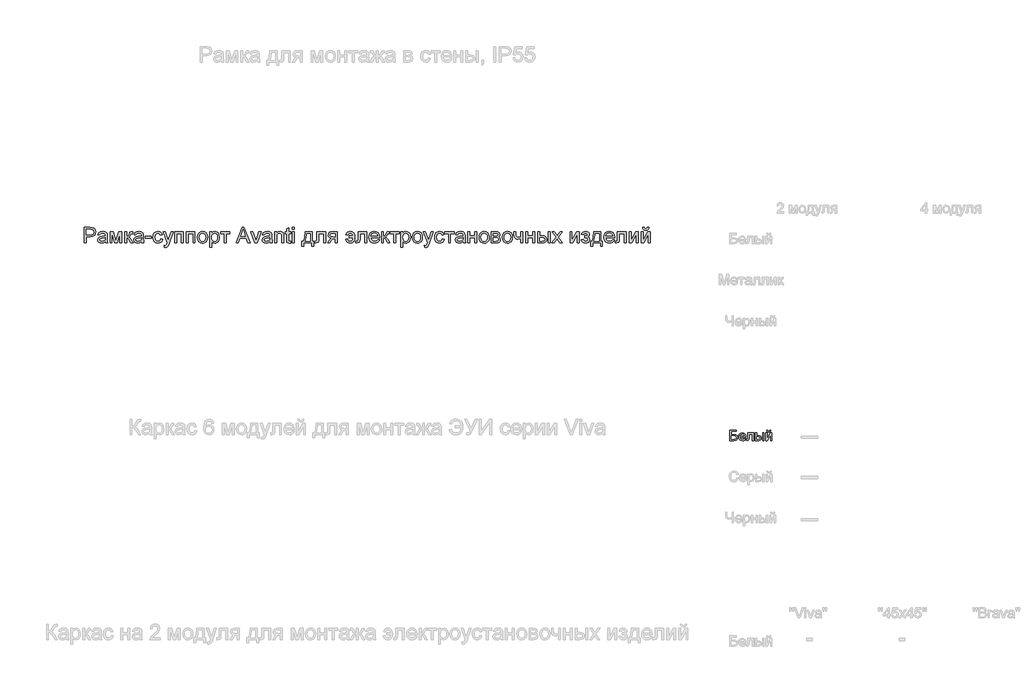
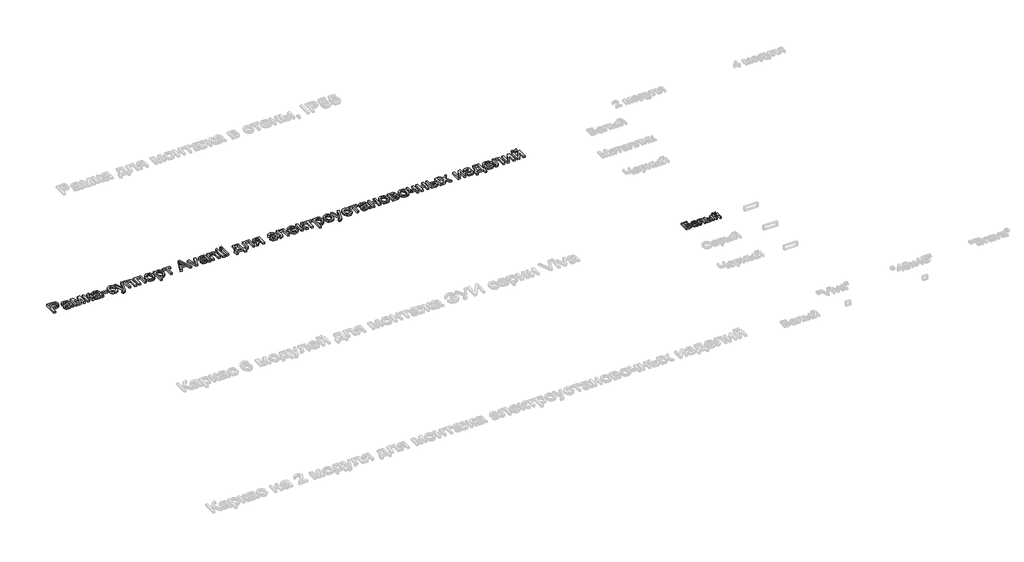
# One storey, part 23 of 48: 2 proxies.
"""IFC4 building model written with IfcOpenShell, lengths in millimetres."""

from ifc_helpers import new_model, si_unit, origin, origin_with_axes, place, context, project, spatial, polyline, outline, extrude, element, save

model = new_model("IFC4")

# Units and contexts
model_context = context("Model", 3, world=origin())
ifc_project = project(units=[si_unit("LENGTHUNIT", "METRE", prefix="MILLI")], contexts=[model_context])

# Site, building, storey
site = spatial("IfcSite", under=ifc_project)
building = spatial("IfcBuilding", under=site)
storey = spatial("IfcBuildingStorey", under=building, Name="Этаж 01", Elevation=0.0)

# Proxies
placement = place(None, origin())
element("IfcBuildingElementProxy", 1, Name="150 мм Arial", ObjectType="150 мм Arial", at=placement, inside=storey, context=model_context, shape_type="SweptSolid", body=[
    extrude(outline(polyline([(70237.9798664, -1719.8131858), (70237.9798664, -1569.1287205), (70293.8243533, -1569.1287205), (70316.3387314, -1570.5634603), (70334.6408607, -1577.6084005), (70346.505055, -1592.1765275), (70350.9932154, -1612.722737), (70347.9627874, -1630.4822403), (70338.8715036, -1645.2802936), (70321.8707569, -1655.2682897), (70295.1119403, -1658.5976218), (70256.8154246, -1658.5976218), (70256.8154246, -1719.8131858), (70237.9798664, -1719.8131858)]), holes=[polyline([(70256.8154246, -1639.7620636), (70296.2155863, -1639.7620636), (70312.9174289, -1638.0330182), (70323.9538887, -1632.8458821), (70330.1067151, -1624.522552), (70332.1576572, -1613.3849246), (70327.320009, -1597.786728), (70314.609686, -1589.2518657), (70295.7741279, -1587.9642787), (70256.8154246, -1587.9642787), (70256.8154246, -1639.7620636)])]), origin_with_axes(), (0.0, 0.0, 1.0), 20.0),
    extrude(outline(polyline([(70445.1710061, -1705.6865172), (70426.9056651, -1718.4520224), (70406.7273376, -1722.1676305), (70390.9865868, -1719.9327474), (70379.3753113, -1713.2280981), (70372.215408, -1703.0469638), (70369.8287735, -1690.3826262), (70373.4340171, -1675.4834054), (70382.9069784, -1664.6676747), (70396.095548, -1658.4872572), (70412.3927204, -1655.6545658), (70445.0606415, -1649.1798427), (70445.1710061, -1644.985988), (70443.8742221, -1636.5798844), (70439.98387, -1631.0800485), (70431.2834608, -1626.9965584), (70419.1617491, -1625.635395), (70400.1054617, -1629.2590327), (70391.0187764, -1642.1165084), (70372.1832183, -1639.7620636), (70380.3318045, -1621.3679639), (70396.7393415, -1610.5890214), (70421.5897702, -1606.7998369), (70444.416848, -1610.147563), (70457.311112, -1618.5536666), (70463.0868593, -1631.3375659), (70464.0065643, -1647.8186793), (70464.0065643, -1671.2527624), (70464.9630575, -1703.9758659), (70468.7154538, -1719.8131858), (70449.8798957, -1719.8131858), (70445.1710061, -1705.6865172)]), holes=[polyline([(70445.1710061, -1668.0154009), (70414.7839533, -1673.7911482), (70398.5787514, -1676.8445687), (70391.2395056, -1681.8109757), (70388.6643317, -1689.058251), (70394.2745321, -1699.2485822), (70410.7372514, -1703.3320724), (70429.7935387, -1698.8255179), (70442.0807974, -1687.9178168), (70445.0606415, -1673.3496898), (70445.1710061, -1668.0154009)])]), origin_with_axes(), (0.0, 0.0, 1.0), 20.0),
    extrude(outline(polyline([(70489.9054567, -1609.1542816), (70522.3158605, -1609.1542816), (70547.295048, -1697.7402661), (70574.22401, -1609.1542816), (70605.2732504, -1609.1542816), (70605.2732504, -1719.8131858), (70586.4376923, -1719.8131858), (70586.4376923, -1630.7121665), (70559.3615774, -1719.8131858), (70534.6399074, -1719.8131858), (70508.7410149, -1626.4447354), (70508.7410149, -1719.8131858), (70489.9054567, -1719.8131858), (70489.9054567, -1609.1542816)])), origin_with_axes(), (0.0, 0.0, 1.0), 20.0),
    extrude(outline(polyline([(70633.5265877, -1609.1542816), (70652.3621458, -1609.1542816), (70652.3621458, -1656.243177), (70664.9804982, -1652.8586627), (70675.3179823, -1633.1401877), (70683.9080269, -1616.1256454), (70691.486396, -1610.5890214), (70705.2635767, -1609.1542816), (70708.8688203, -1609.1542816), (70708.8688203, -1628.1002044), (70703.7920487, -1627.9898398), (70694.5949989, -1629.9764026), (70688.1202757, -1642.3740258), (70680.5235125, -1655.7833245), (70669.8733288, -1662.3500181), (70681.7559172, -1669.6800669), (70693.4177765, -1685.1219136), (70713.5777098, -1719.8131858), (70692.1669777, -1719.8131858), (70672.4117145, -1685.8576776), (70662.4789007, -1671.4918857), (70652.3621458, -1668.0154009), (70652.3621458, -1719.8131858), (70633.5265877, -1719.8131858), (70633.5265877, -1609.1542816)])), origin_with_axes(), (0.0, 0.0, 1.0), 20.0),
    extrude(outline(polyline([(70795.9832767, -1705.6865172), (70777.7179357, -1718.4520224), (70757.5396082, -1722.1676305), (70741.7988574, -1719.9327474), (70730.1875819, -1713.2280981), (70723.0276786, -1703.0469638), (70720.6410441, -1690.3826262), (70724.2462877, -1675.4834054), (70733.719249, -1664.6676747), (70746.9078186, -1658.4872572), (70763.204991, -1655.6545658), (70795.8729121, -1649.1798427), (70795.9832767, -1644.985988), (70794.6864927, -1636.5798844), (70790.7961406, -1631.0800485), (70782.0957314, -1626.9965584), (70769.9740197, -1625.635395), (70750.9177323, -1629.2590327), (70741.831047, -1642.1165084), (70722.9954889, -1639.7620636), (70731.1440751, -1621.3679639), (70747.5516121, -1610.5890214), (70772.4020408, -1606.7998369), (70795.2291186, -1610.147563), (70808.1233826, -1618.5536666), (70813.8991299, -1631.3375659), (70814.8188349, -1647.8186793), (70814.8188349, -1671.2527624), (70815.7753281, -1703.9758659), (70819.5277244, -1719.8131858), (70800.6921663, -1719.8131858), (70795.9832767, -1705.6865172)]), holes=[polyline([(70795.9832767, -1668.0154009), (70765.5962239, -1673.7911482), (70749.391022, -1676.8445687), (70742.0517762, -1681.8109757), (70739.4766023, -1689.058251), (70745.0868027, -1699.2485822), (70761.549522, -1703.3320724), (70780.6058093, -1698.8255179), (70792.893068, -1687.9178168), (70795.8729121, -1673.3496898), (70795.9832767, -1668.0154009)])]), origin_with_axes(), (0.0, 0.0, 1.0), 20.0),
    extrude(outline(polyline([(70831.2999483, -1675.0787352), (70831.2999483, -1656.243177), (70890.1610675, -1656.243177), (70890.1610675, -1675.0787352), (70831.2999483, -1675.0787352)])), origin_with_axes(), (0.0, 0.0, 1.0), 20.0),
    extrude(outline(polyline([(70981.9844135, -1679.7876247), (71000.8199716, -1682.1420695), (70995.5684562, -1698.8944958), (70985.7000216, -1711.554235), (70972.1435701, -1719.5142817), (70955.8280036, -1722.1676305), (70935.7922305, -1718.465818), (70920.125056, -1707.3603802), (70910.0128997, -1689.338761), (70906.6421809, -1664.8884039), (70908.0815192, -1648.1267805), (70912.3995341, -1633.6000402), (70919.6652035, -1621.8692031), (70929.9475053, -1613.4952892), (70942.2485595, -1608.4736999), (70955.5704862, -1606.7998369), (70971.485981, -1609.0990993), (70984.2100996, -1615.9968867), (70993.3381716, -1627.1253171), (70998.4655269, -1642.1165084), (70979.6299687, -1644.4709532), (70970.8927713, -1630.3626786), (70955.717639, -1625.635395), (70943.5453435, -1627.9622486), (70933.8838426, -1634.9428095), (70927.5792649, -1646.9541566), (70925.477739, -1664.3733691), (70927.5332797, -1682.0271063), (70933.6999016, -1694.0798402), (70943.1866586, -1701.0190143), (70955.2026042, -1703.3320724), (70964.9560756, -1701.8881356), (70972.9529105, -1697.5563251), (70978.7700446, -1690.2262763), (70981.9844135, -1679.7876247)])), origin_with_axes(), (0.0, 0.0, 1.0), 20.0),
    extrude(outline(polyline([(71017.301085, -1762.1931916), (71014.9466403, -1744.0566093), (71024.5115721, -1745.7120782), (71033.4511046, -1743.633545), (71038.9325463, -1737.8394035), (71044.0828943, -1723.9702523), (71045.5544223, -1719.4085156), (71005.5288612, -1609.1542816), (71025.3944889, -1609.1542816), (71046.62128, -1670.5905748), (71054.0157081, -1695.1650921), (71061.4101362, -1673.4600544), (71083.2255386, -1609.1542816), (71102.9440135, -1609.1542816), (71064.4267686, -1722.4619361), (71054.4203783, -1747.0364534), (71043.4942831, -1760.3169934), (71028.8157915, -1764.5476364), (71017.301085, -1762.1931916)])), origin_with_axes(), (0.0, 0.0, 1.0), 20.0),
    extrude(outline(polyline([(71118.5422101, -1609.1542816), (71203.3022218, -1609.1542816), (71203.3022218, -1719.8131858), (71184.4666636, -1719.8131858), (71184.4666636, -1627.9898398), (71137.3777682, -1627.9898398), (71137.3777682, -1719.8131858), (71118.5422101, -1719.8131858), (71118.5422101, -1609.1542816)])), origin_with_axes(), (0.0, 0.0, 1.0), 20.0),
    extrude(outline(polyline([(71231.555559, -1609.1542816), (71316.3155707, -1609.1542816), (71316.3155707, -1719.8131858), (71297.4800125, -1719.8131858), (71297.4800125, -1627.9898398), (71250.3911172, -1627.9898398), (71250.3911172, -1719.8131858), (71231.555559, -1719.8131858), (71231.555559, -1609.1542816)])), origin_with_axes(), (0.0, 0.0, 1.0), 20.0),
    extrude(outline(polyline([(71339.8600184, -1664.4837337), (71343.9343115, -1637.803092), (71356.1571908, -1619.0503073), (71371.2587467, -1609.8624545), (71389.3401467, -1606.7998369), (71409.1275996, -1610.5292406), (71424.9327298, -1621.7174518), (71435.2932065, -1639.4815536), (71438.7466987, -1662.9386293), (71437.2199884, -1681.9673255), (71432.6398576, -1696.4526791), (71425.1396634, -1707.3005994), (71414.8527631, -1715.4169959), (71402.6344823, -1720.4799719), (71389.3401467, -1722.1676305), (71369.3135706, -1718.4520224), (71353.5268345, -1707.3051979), (71343.2767224, -1689.1686156), (71339.8600184, -1664.4837337)]), holes=[polyline([(71358.6955765, -1664.4469455), (71360.8752774, -1681.4936775), (71367.4143798, -1693.6383818), (71377.2552232, -1700.9086497), (71389.3401467, -1703.3320724), (71401.369888, -1700.8948542), (71411.1923373, -1693.5831995), (71417.7314397, -1681.2775468), (71419.9111405, -1663.8583343), (71417.7176441, -1647.308243), (71411.137155, -1635.3290856), (71401.3009101, -1628.0588177), (71389.3401467, -1625.635395), (71377.2552232, -1628.0496206), (71367.4143798, -1635.2922974), (71360.8752774, -1647.4094106), (71358.6955765, -1664.4469455)])]), origin_with_axes(), (0.0, 0.0, 1.0), 20.0),
    extrude(outline(polyline([(71459.9367016, -1762.1931916), (71459.9367016, -1609.1542816), (71478.7722598, -1609.1542816), (71478.7722598, -1627.6219578), (71491.7952824, -1612.0053671), (71509.3800418, -1606.7998369), (71522.1179559, -1608.6208527), (71533.2555833, -1614.0839004), (71542.3238744, -1622.8578859), (71548.8537799, -1634.6117157), (71554.1144924, -1663.6376051), (71552.6291688, -1679.746238), (71548.1731982, -1694.1534166), (71540.8891347, -1706.1279756), (71530.9195326, -1714.9387493), (71519.3082571, -1720.3604102), (71507.0991734, -1722.1676305), (71490.7100305, -1717.3299823), (71478.7722598, -1705.097906), (71478.7722598, -1762.1931916), (71459.9367016, -1762.1931916)]), holes=[polyline([(71478.7722598, -1665.3666505), (71480.8094063, -1682.2524341), (71486.920846, -1694.0614461), (71495.9385534, -1701.0144158), (71506.6945032, -1703.3320724), (71517.625197, -1700.9316424), (71526.8728306, -1693.7303523), (71533.1774083, -1681.4890789), (71535.2789342, -1663.9686989), (71533.2279921, -1647.1748858), (71527.0751657, -1635.2003269), (71518.0712539, -1628.026628), (71507.4670554, -1625.635395), (71496.8214702, -1628.1783793), (71487.472669, -1635.8073322), (71480.9473621, -1648.2831303), (71478.7722598, -1665.3666505)])]), origin_with_axes(), (0.0, 0.0, 1.0), 20.0),
    extrude(outline(polyline([(71565.8867162, -1609.1542816), (71655.3556175, -1609.1542816), (71655.3556175, -1627.9898398), (71620.0389459, -1627.9898398), (71620.0389459, -1719.8131858), (71601.2033878, -1719.8131858), (71601.2033878, -1627.9898398), (71565.8867162, -1627.9898398), (71565.8867162, -1609.1542816)])), origin_with_axes(), (0.0, 0.0, 1.0), 20.0),
    extrude(outline(polyline([(71715.5043237, -1719.8131858), (71775.6530299, -1569.1287205), (71791.6926849, -1569.1287205), (71851.8413911, -1719.8131858), (71831.9389751, -1719.8131858), (71814.6853096, -1672.7242904), (71752.623617, -1672.7242904), (71735.4067396, -1719.8131858), (71715.5043237, -1719.8131858)]), holes=[polyline([(71759.5397985, -1653.8887322), (71807.8059163, -1653.8887322), (71794.2310706, -1616.8430153), (71783.6728574, -1587.9642787), (71774.2918665, -1613.6056538), (71759.5397985, -1653.8887322)])]), origin_with_axes(), (0.0, 0.0, 1.0), 20.0),
    extrude(outline(polyline([(71896.7597827, -1719.8131858), (71857.8378676, -1609.1542816), (71877.7770717, -1609.1542816), (71901.3583076, -1675.4466172), (71908.4584301, -1697.7402661), (71915.4113998, -1676.6974159), (71939.1397885, -1609.1542816), (71959.0789927, -1609.1542816), (71920.6353242, -1719.8131858), (71896.7597827, -1719.8131858)])), origin_with_axes(), (0.0, 0.0, 1.0), 20.0),
    extrude(outline(polyline([(72046.1934491, -1705.6865172), (72027.9281081, -1718.4520224), (72007.7497806, -1722.1676305), (71992.0090298, -1719.9327474), (71980.3977543, -1713.2280981), (71973.237851, -1703.0469638), (71970.8512165, -1690.3826262), (71974.4564601, -1675.4834054), (71983.9294214, -1664.6676747), (71997.117991, -1658.4872572), (72013.4151634, -1655.6545658), (72046.0830845, -1649.1798427), (72046.1934491, -1644.985988), (72044.8966651, -1636.5798844), (72041.006313, -1631.0800485), (72032.3059038, -1626.9965584), (72020.1841921, -1625.635395), (72001.1279047, -1629.2590327), (71992.0412194, -1642.1165084), (71973.2056613, -1639.7620636), (71981.3542475, -1621.3679639), (71997.7617845, -1610.5890214), (72022.6122132, -1606.7998369), (72045.439291, -1610.147563), (72058.333555, -1618.5536666), (72064.1093023, -1631.3375659), (72065.0290073, -1647.8186793), (72065.0290073, -1671.2527624), (72065.9855005, -1703.9758659), (72069.7378968, -1719.8131858), (72050.9023387, -1719.8131858), (72046.1934491, -1705.6865172)]), holes=[polyline([(72046.1934491, -1668.0154009), (72015.8063963, -1673.7911482), (71999.6011944, -1676.8445687), (71992.2619486, -1681.8109757), (71989.6867747, -1689.058251), (71995.2969751, -1699.2485822), (72011.7596944, -1703.3320724), (72030.8159817, -1698.8255179), (72043.1032404, -1687.9178168), (72046.0830845, -1673.3496898), (72046.1934491, -1668.0154009)])]), origin_with_axes(), (0.0, 0.0, 1.0), 20.0),
    extrude(outline(polyline([(72090.9278997, -1719.8131858), (72090.9278997, -1609.1542816), (72109.7634579, -1609.1542816), (72109.7634579, -1624.6053254), (72124.166038, -1611.251209), (72143.8293307, -1606.7998369), (72161.6164251, -1610.3866863), (72173.756531, -1619.8044654), (72179.4035196, -1633.6552225), (72180.396801, -1651.8653813), (72180.396801, -1719.8131858), (72161.5612428, -1719.8131858), (72161.5612428, -1654.403767), (72159.390739, -1637.7387126), (72151.7203994, -1628.9279389), (72138.7893473, -1625.635395), (72127.757486, -1627.484002), (72118.3535025, -1633.0298231), (72111.910969, -1643.7443862), (72109.7634579, -1661.0992193), (72109.7634579, -1719.8131858), (72090.9278997, -1719.8131858)])), origin_with_axes(), (0.0, 0.0, 1.0), 20.0),
    extrude(outline(polyline([(72246.3212545, -1704.1046246), (72248.6756993, -1720.3650088), (72234.5858189, -1722.1676305), (72218.8036813, -1719.0406336), (72210.9310066, -1710.8368651), (72208.6501382, -1689.4629212), (72208.6501382, -1627.9898398), (72194.5234696, -1627.9898398), (72194.5234696, -1609.1542816), (72208.6501382, -1609.1542816), (72208.6501382, -1582.2621078), (72227.4856964, -1571.1888597), (72227.4856964, -1609.1542816), (72246.3212545, -1609.1542816), (72246.3212545, -1627.9898398), (72227.4856964, -1627.9898398), (72227.4856964, -1688.9110982), (72228.4789777, -1698.6231829), (72231.6979452, -1702.0628795), (72238.117486, -1703.3320724), (72246.3212545, -1704.1046246)])), origin_with_axes(), (0.0, 0.0, 1.0), 20.0),
    extrude(outline(polyline([(72265.1568127, -1587.9642787), (72265.1568127, -1569.1287205), (72283.9923708, -1569.1287205), (72283.9923708, -1587.9642787), (72265.1568127, -1587.9642787)])), origin_with_axes(), (0.0, 0.0, 1.0), 20.0),
    extrude(outline(polyline([(72265.1568127, -1719.8131858), (72265.1568127, -1609.1542816), (72283.9923708, -1609.1542816), (72283.9923708, -1719.8131858), (72265.1568127, -1719.8131858)])), origin_with_axes(), (0.0, 0.0, 1.0), 20.0),
    extrude(outline(polyline([(72387.5879407, -1609.1542816), (72458.2212837, -1609.1542816), (72458.2212837, -1700.9776276), (72472.3479523, -1700.9776276), (72472.3479523, -1750.4209678), (72453.5123942, -1750.4209678), (72453.5123942, -1719.8131858), (72375.8157168, -1719.8131858), (72375.8157168, -1750.4209678), (72356.9801587, -1750.4209678), (72356.9801587, -1700.9776276), (72368.7523825, -1700.9776276), (72377.3102374, -1685.5127882), (72383.3021154, -1665.0539508), (72387.5879407, -1609.1542816)]), holes=[polyline([(72404.069054, -1627.9898398), (72399.6544701, -1670.9032745), (72389.9423854, -1700.9776276), (72439.3857256, -1700.9776276), (72439.3857256, -1627.9898398), (72404.069054, -1627.9898398)])]), origin_with_axes(), (0.0, 0.0, 1.0), 20.0),
    extrude(outline(polyline([(72502.9557343, -1609.1542816), (72587.715746, -1609.1542816), (72587.715746, -1719.7028212), (72568.8801879, -1719.7028212), (72568.8801879, -1627.9898398), (72521.7912925, -1627.9898398), (72521.7912925, -1680.7809061), (72520.5220996, -1705.1346942), (72513.5507358, -1715.4169959), (72497.0696224, -1719.8131858), (72481.7657314, -1718.8566926), (72481.7657314, -1700.9776276), (72490.1902291, -1700.9776276), (72498.7066973, -1699.8187993), (72502.1096058, -1696.1399794), (72502.9557343, -1679.7140483), (72502.9557343, -1609.1542816)])), origin_with_axes(), (0.0, 0.0, 1.0), 20.0),
    extrude(outline(polyline([(72700.729095, -1609.1542816), (72700.729095, -1719.8131858), (72681.8935368, -1719.8131858), (72681.8935368, -1677.4331799), (72671.6296291, -1677.4331799), (72657.6501133, -1679.8244129), (72644.5167261, -1695.9008561), (72629.5071407, -1719.8131858), (72607.7285266, -1719.8131858), (72626.6376611, -1689.5732858), (72634.9885824, -1678.7207669), (72642.6773161, -1673.9015128), (72629.8014463, -1669.9559784), (72620.7515492, -1662.4603827), (72615.3988662, -1652.4907807), (72613.6146385, -1641.123227), (72616.0518567, -1628.2289631), (72623.3635114, -1618.0202377), (72635.2920851, -1611.3707706), (72651.5800604, -1609.1542816), (72700.729095, -1609.1542816)]), holes=[polyline([(72681.8935368, -1627.9898398), (72657.0615021, -1627.9898398), (72644.2362161, -1629.0796902), (72636.9567511, -1632.3492414), (72632.4501966, -1642.5579668), (72634.1102641, -1649.7362642), (72639.0904667, -1654.7164667), (72662.6165203, -1658.5976218), (72681.8935368, -1658.5976218), (72681.8935368, -1627.9898398)])]), origin_with_axes(), (0.0, 0.0, 1.0), 20.0),
    extrude(outline(polyline([(72818.4513334, -1651.5342875), (72853.7680049, -1651.5342875), (72850.8663357, -1641.1002344), (72845.2515368, -1632.827488), (72837.2914901, -1627.4334183), (72827.3540777, -1625.635395), (72812.0869749, -1630.3442845), (72804.3246648, -1644.4709532), (72785.4891066, -1642.1165084), (72789.880698, -1627.9760442), (72798.4201588, -1616.6774684), (72810.6752277, -1609.2692447), (72826.2136435, -1606.7998369), (72845.4400763, -1610.6442037), (72860.1507576, -1622.1773043), (72869.4903617, -1640.4426453), (72872.6035631, -1664.4837337), (72870.0329877, -1688.4144575), (72861.1440389, -1707.2316215), (72846.6172987, -1719.0958159), (72827.1333485, -1722.1676305), (72810.4315059, -1719.4131141), (72797.2613305, -1711.1495648), (72788.0274924, -1698.3886581), (72783.1346619, -1682.1420695), (72801.97022, -1679.7876247), (72804.9454657, -1690.0883206), (72810.082018, -1697.4459605), (72817.3798771, -1701.8605444), (72826.8390429, -1703.3320724), (72837.4800296, -1701.2719332), (72845.4906601, -1695.0915157), (72850.9077224, -1684.7908198), (72853.7680049, -1670.3698456), (72818.4513334, -1670.3698456), (72818.4513334, -1651.5342875)])), origin_with_axes(), (0.0, 0.0, 1.0), 20.0),
    extrude(outline(polyline([(72903.2113451, -1609.1542816), (72987.9713568, -1609.1542816), (72987.9713568, -1719.7028212), (72969.1357986, -1719.7028212), (72969.1357986, -1627.9898398), (72922.0469032, -1627.9898398), (72922.0469032, -1680.7809061), (72920.7777104, -1705.1346942), (72913.8063466, -1715.4169959), (72897.3252332, -1719.8131858), (72882.0213422, -1718.8566926), (72882.0213422, -1700.9776276), (72890.4458399, -1700.9776276), (72898.9623081, -1699.8187993), (72902.3652165, -1696.1399794), (72903.2113451, -1679.7140483), (72903.2113451, -1609.1542816)])), origin_with_axes(), (0.0, 0.0, 1.0), 20.0),
    extrude(outline(polyline([(73093.7006422, -1686.850959), (73112.1683184, -1689.2054038), (73105.5142528, -1703.1205402), (73094.8962587, -1713.5224037), (73080.5534594, -1720.0063238), (73062.7249782, -1722.1676305), (73040.6244673, -1718.4382268), (73023.6191221, -1707.2500156), (73012.7758003, -1689.3295639), (73009.1613597, -1665.4034387), (73012.8125885, -1640.6725716), (73023.7662749, -1622.1773043), (73040.5416939, -1610.6442037), (73061.6581204, -1606.7998369), (73082.1169579, -1610.6350067), (73098.464714, -1622.1405161), (73109.1838757, -1640.5989952), (73112.7569295, -1665.2930741), (73112.646565, -1670.3698456), (73027.9969179, -1670.3698456), (73031.257272, -1684.4689231), (73038.8310426, -1694.8339983), (73049.7617364, -1701.2075539), (73063.0928602, -1703.3320724), (73081.5605364, -1699.395735), (73093.7006422, -1686.850959)]), holes=[polyline([(73027.9969179, -1651.5342875), (73093.9213714, -1651.5342875), (73091.3737886, -1641.5830795), (73086.3797905, -1634.4645629), (73075.3985129, -1627.842687), (73061.584544, -1625.635395), (73048.8880167, -1627.3966301), (73038.3895842, -1632.6803352), (73031.0917251, -1640.9162934), (73027.9969179, -1651.5342875)])]), origin_with_axes(), (0.0, 0.0, 1.0), 20.0),
    extrude(outline(polyline([(73131.5924877, -1609.1542816), (73150.4280459, -1609.1542816), (73150.4280459, -1656.243177), (73163.0463983, -1652.8586627), (73173.3838824, -1633.1401877), (73181.9739269, -1616.1256454), (73189.552296, -1610.5890214), (73203.3294768, -1609.1542816), (73206.9347203, -1609.1542816), (73206.9347203, -1628.1002044), (73201.8579488, -1627.9898398), (73192.6608989, -1629.9764026), (73186.1861758, -1642.3740258), (73178.5894126, -1655.7833245), (73167.9392288, -1662.3500181), (73179.8218173, -1669.6800669), (73191.4836765, -1685.1219136), (73211.6436099, -1719.8131858), (73190.2328777, -1719.8131858), (73170.4776146, -1685.8576776), (73160.5448007, -1671.4918857), (73150.4280459, -1668.0154009), (73150.4280459, -1719.8131858), (73131.5924877, -1719.8131858), (73131.5924877, -1609.1542816)])), origin_with_axes(), (0.0, 0.0, 1.0), 20.0),
    extrude(outline(polyline([(73213.9980546, -1609.1542816), (73303.4669558, -1609.1542816), (73303.4669558, -1627.9898398), (73268.1502843, -1627.9898398), (73268.1502843, -1719.8131858), (73249.3147262, -1719.8131858), (73249.3147262, -1627.9898398), (73213.9980546, -1627.9898398), (73213.9980546, -1609.1542816)])), origin_with_axes(), (0.0, 0.0, 1.0), 20.0),
    extrude(outline(polyline([(73319.9480692, -1762.1931916), (73319.9480692, -1609.1542816), (73338.7836274, -1609.1542816), (73338.7836274, -1627.6219578), (73351.80665, -1612.0053671), (73369.3914094, -1606.7998369), (73382.1293235, -1608.6208527), (73393.2669509, -1614.0839004), (73402.3352421, -1622.8578859), (73408.8651475, -1634.6117157), (73414.12586, -1663.6376051), (73412.6405364, -1679.746238), (73408.1845658, -1694.1534166), (73400.9005023, -1706.1279756), (73390.9309002, -1714.9387493), (73379.3196247, -1720.3604102), (73367.110541, -1722.1676305), (73350.7213981, -1717.3299823), (73338.7836274, -1705.097906), (73338.7836274, -1762.1931916), (73319.9480692, -1762.1931916)]), holes=[polyline([(73338.7836274, -1665.3666505), (73340.8207739, -1682.2524341), (73346.9322136, -1694.0614461), (73355.949921, -1701.0144158), (73366.7058708, -1703.3320724), (73377.6365646, -1700.9316424), (73386.8841983, -1693.7303523), (73393.1887759, -1681.4890789), (73395.2903018, -1663.9686989), (73393.2393597, -1647.1748858), (73387.0865334, -1635.2003269), (73378.0826215, -1628.026628), (73367.478423, -1625.635395), (73356.8328378, -1628.1783793), (73347.4840366, -1635.8073322), (73340.9587297, -1648.2831303), (73338.7836274, -1665.3666505)])]), origin_with_axes(), (0.0, 0.0, 1.0), 20.0),
    extrude(outline(polyline([(73430.6069734, -1664.4837337), (73434.6812665, -1637.803092), (73446.9041458, -1619.0503073), (73462.0057017, -1609.8624545), (73480.0871017, -1606.7998369), (73499.8745545, -1610.5292406), (73515.6796848, -1621.7174518), (73526.0401615, -1639.4815536), (73529.4936537, -1662.9386293), (73527.9669434, -1681.9673255), (73523.3868126, -1696.4526791), (73515.8866184, -1707.3005994), (73505.5997181, -1715.4169959), (73493.3814373, -1720.4799719), (73480.0871017, -1722.1676305), (73460.0605256, -1718.4520224), (73444.2737895, -1707.3051979), (73434.0236774, -1689.1686156), (73430.6069734, -1664.4837337)]), holes=[polyline([(73449.4425315, -1664.4469455), (73451.6222324, -1681.4936775), (73458.1613348, -1693.6383818), (73468.0021782, -1700.9086497), (73480.0871017, -1703.3320724), (73492.116843, -1700.8948542), (73501.9392922, -1693.5831995), (73508.4783947, -1681.2775468), (73510.6580955, -1663.8583343), (73508.4645991, -1647.308243), (73501.8841099, -1635.3290856), (73492.0478651, -1628.0588177), (73480.0871017, -1625.635395), (73468.0021782, -1628.0496206), (73458.1613348, -1635.2922974), (73451.6222324, -1647.4094106), (73449.4425315, -1664.4469455)])]), origin_with_axes(), (0.0, 0.0, 1.0), 20.0),
    extrude(outline(polyline([(73550.6836566, -1762.1931916), (73548.3292118, -1744.0566093), (73557.8941437, -1745.7120782), (73566.8336762, -1743.633545), (73572.3151179, -1737.8394035), (73577.4654659, -1723.9702523), (73578.9369938, -1719.4085156), (73538.9114328, -1609.1542816), (73558.7770605, -1609.1542816), (73580.0038516, -1670.5905748), (73587.3982797, -1695.1650921), (73594.7927078, -1673.4600544), (73616.6081101, -1609.1542816), (73636.3265851, -1609.1542816), (73597.8093402, -1722.4619361), (73587.8029499, -1747.0364534), (73576.8768547, -1760.3169934), (73562.1983631, -1764.5476364), (73550.6836566, -1762.1931916)])), origin_with_axes(), (0.0, 0.0, 1.0), 20.0),
    extrude(outline(polyline([(73722.5581248, -1679.7876247), (73741.3936829, -1682.1420695), (73736.1421674, -1698.8944958), (73726.2737329, -1711.554235), (73712.7172814, -1719.5142817), (73696.4017149, -1722.1676305), (73676.3659417, -1718.465818), (73660.6987673, -1707.3603802), (73650.5866109, -1689.338761), (73647.2158921, -1664.8884039), (73648.6552304, -1648.1267805), (73652.9732454, -1633.6000402), (73660.2389148, -1621.8692031), (73670.5212165, -1613.4952892), (73682.8222708, -1608.4736999), (73696.1441975, -1606.7998369), (73712.0596923, -1609.0990993), (73724.7838108, -1615.9968867), (73733.9118828, -1627.1253171), (73739.0392381, -1642.1165084), (73720.20368, -1644.4709532), (73711.4664826, -1630.3626786), (73696.2913503, -1625.635395), (73684.1190548, -1627.9622486), (73674.4575539, -1634.9428095), (73668.1529762, -1646.9541566), (73666.0514503, -1664.3733691), (73668.1069909, -1682.0271063), (73674.2736129, -1694.0798402), (73683.7603698, -1701.0190143), (73695.7763155, -1703.3320724), (73705.5297869, -1701.8881356), (73713.5266218, -1697.5563251), (73719.3437558, -1690.2262763), (73722.5581248, -1679.7876247)])), origin_with_axes(), (0.0, 0.0, 1.0), 20.0),
    extrude(outline(polyline([(73748.4570172, -1609.1542816), (73837.9259184, -1609.1542816), (73837.9259184, -1627.9898398), (73802.6092469, -1627.9898398), (73802.6092469, -1719.8131858), (73783.7736888, -1719.8131858), (73783.7736888, -1627.9898398), (73748.4570172, -1627.9898398), (73748.4570172, -1609.1542816)])), origin_with_axes(), (0.0, 0.0, 1.0), 20.0),
    extrude(outline(polyline([(73925.0403749, -1705.6865172), (73906.7750338, -1718.4520224), (73886.5967064, -1722.1676305), (73870.8559555, -1719.9327474), (73859.2446801, -1713.2280981), (73852.0847767, -1703.0469638), (73849.6981423, -1690.3826262), (73853.3033858, -1675.4834054), (73862.7763472, -1664.6676747), (73875.9649167, -1658.4872572), (73892.2620891, -1655.6545658), (73924.9300103, -1649.1798427), (73925.0403749, -1644.985988), (73923.7435909, -1636.5798844), (73919.8532388, -1631.0800485), (73911.1528296, -1626.9965584), (73899.0311178, -1625.635395), (73879.9748305, -1629.2590327), (73870.8881452, -1642.1165084), (73852.0525871, -1639.7620636), (73860.2011732, -1621.3679639), (73876.6087102, -1610.5890214), (73901.459139, -1606.7998369), (73924.2862168, -1610.147563), (73937.1804807, -1618.5536666), (73942.9562281, -1631.3375659), (73943.8759331, -1647.8186793), (73943.8759331, -1671.2527624), (73944.8324262, -1703.9758659), (73948.5848226, -1719.8131858), (73929.7492644, -1719.8131858), (73925.0403749, -1705.6865172)]), holes=[polyline([(73925.0403749, -1668.0154009), (73894.6533221, -1673.7911482), (73878.4481202, -1676.8445687), (73871.1088744, -1681.8109757), (73868.5337004, -1689.058251), (73874.1439009, -1699.2485822), (73890.6066202, -1703.3320724), (73909.6629075, -1698.8255179), (73921.9501661, -1687.9178168), (73924.9300103, -1673.3496898), (73925.0403749, -1668.0154009)])]), origin_with_axes(), (0.0, 0.0, 1.0), 20.0),
    extrude(outline(polyline([(73969.7748255, -1609.1542816), (73988.6103837, -1609.1542816), (73988.6103837, -1651.5342875), (74038.0537238, -1651.5342875), (74038.0537238, -1609.1542816), (74056.889282, -1609.1542816), (74056.889282, -1719.8131858), (74038.0537238, -1719.8131858), (74038.0537238, -1670.3698456), (73988.6103837, -1670.3698456), (73988.6103837, -1719.8131858), (73969.7748255, -1719.8131858), (73969.7748255, -1609.1542816)])), origin_with_axes(), (0.0, 0.0, 1.0), 20.0),
    extrude(outline(polyline([(74080.4337297, -1664.4837337), (74084.5080228, -1637.803092), (74096.730902, -1619.0503073), (74111.832458, -1609.8624545), (74129.913858, -1606.7998369), (74149.7013108, -1610.5292406), (74165.506441, -1621.7174518), (74175.8669177, -1639.4815536), (74179.32041, -1662.9386293), (74177.7936997, -1681.9673255), (74173.2135688, -1696.4526791), (74165.7133747, -1707.3005994), (74155.4264744, -1715.4169959), (74143.2081936, -1720.4799719), (74129.913858, -1722.1676305), (74109.8872819, -1718.4520224), (74094.1005458, -1707.3051979), (74083.8504337, -1689.1686156), (74080.4337297, -1664.4837337)]), holes=[polyline([(74099.2692878, -1664.4469455), (74101.4489886, -1681.4936775), (74107.9880911, -1693.6383818), (74117.8289345, -1700.9086497), (74129.913858, -1703.3320724), (74141.9435993, -1700.8948542), (74151.7660485, -1693.5831995), (74158.305151, -1681.2775468), (74160.4848518, -1663.8583343), (74158.2913554, -1647.308243), (74151.7108662, -1635.3290856), (74141.8746214, -1628.0588177), (74129.913858, -1625.635395), (74117.8289345, -1628.0496206), (74107.9880911, -1635.2922974), (74101.4489886, -1647.4094106), (74099.2692878, -1664.4469455)])]), origin_with_axes(), (0.0, 0.0, 1.0), 20.0),
    extrude(outline(polyline([(74200.5104129, -1609.1542816), (74242.0075019, -1609.1542816), (74264.7610033, -1611.6742733), (74277.5632968, -1620.9081114), (74282.9159798, -1637.0029487), (74279.6786183, -1650.0811536), (74269.9297454, -1659.4069622), (74282.584886, -1669.6156875), (74287.6248693, -1687.3659938), (74284.433493, -1701.7225887), (74276.8459269, -1711.8301465), (74264.8345797, -1717.8174259), (74248.3718605, -1719.8131858), (74200.5104129, -1719.8131858), (74200.5104129, -1609.1542816)]), holes=[polyline([(74219.345971, -1651.5342875), (74237.9608, -1651.5342875), (74253.3198733, -1650.5777943), (74260.7878778, -1646.7518215), (74264.0804217, -1639.83564), (74262.6364848, -1634.2162425), (74258.3046743, -1630.6018019), (74238.5494112, -1627.9898398), (74219.345971, -1627.9898398), (74219.345971, -1651.5342875)]), polyline([(74219.345971, -1700.9776276), (74242.4489603, -1700.9776276), (74262.9399875, -1697.5747192), (74267.1798275, -1692.9348075), (74268.7893112, -1685.8208894), (74265.5703437, -1676.7525982), (74257.1826342, -1671.4734916), (74240.6095504, -1670.3698456), (74219.345971, -1670.3698456), (74219.345971, -1700.9776276)])]), origin_with_axes(), (0.0, 0.0, 1.0), 20.0),
    extrude(outline(polyline([(74306.4604275, -1664.4837337), (74310.5347206, -1637.803092), (74322.7575999, -1619.0503073), (74337.8591558, -1609.8624545), (74355.9405559, -1606.7998369), (74375.7280087, -1610.5292406), (74391.5331389, -1621.7174518), (74401.8936156, -1639.4815536), (74405.3471078, -1662.9386293), (74403.8203975, -1681.9673255), (74399.2402667, -1696.4526791), (74391.7400725, -1707.3005994), (74381.4531722, -1715.4169959), (74369.2348915, -1720.4799719), (74355.9405559, -1722.1676305), (74335.9139797, -1718.4520224), (74320.1272436, -1707.3051979), (74309.8771315, -1689.1686156), (74306.4604275, -1664.4837337)]), holes=[polyline([(74325.2959857, -1664.4469455), (74327.4756865, -1681.4936775), (74334.0147889, -1693.6383818), (74343.8556323, -1700.9086497), (74355.9405559, -1703.3320724), (74367.9702971, -1700.8948542), (74377.7927464, -1693.5831995), (74384.3318488, -1681.2775468), (74386.5115496, -1663.8583343), (74384.3180533, -1647.308243), (74377.7375641, -1635.3290856), (74367.9013192, -1628.0588177), (74355.9405559, -1625.635395), (74343.8556323, -1628.0496206), (74334.0147889, -1635.2922974), (74327.4756865, -1647.4094106), (74325.2959857, -1664.4469455)])]), origin_with_axes(), (0.0, 0.0, 1.0), 20.0),
    extrude(outline(polyline([(74419.4737764, -1609.1542816), (74438.3093346, -1609.1542816), (74438.3093346, -1630.3810727), (74439.8360449, -1650.2834887), (74447.1752907, -1661.0624311), (74461.7434177, -1665.6609561), (74487.7526747, -1659.9587852), (74487.7526747, -1609.1542816), (74506.5882329, -1609.1542816), (74506.5882329, -1719.8131858), (74487.7526747, -1719.8131858), (74487.7526747, -1678.0217911), (74456.7034343, -1684.4965142), (74445.3128881, -1682.8088556), (74435.3478845, -1677.7458796), (74427.5809759, -1670.2364884), (74422.7847144, -1661.2095839), (74419.4737764, -1639.6884872), (74419.4737764, -1609.1542816)])), origin_with_axes(), (0.0, 0.0, 1.0), 20.0),
    extrude(outline(polyline([(74534.8415701, -1609.1542816), (74553.6771283, -1609.1542816), (74553.6771283, -1651.5342875), (74603.1204684, -1651.5342875), (74603.1204684, -1609.1542816), (74621.9560266, -1609.1542816), (74621.9560266, -1719.8131858), (74603.1204684, -1719.8131858), (74603.1204684, -1670.3698456), (74553.6771283, -1670.3698456), (74553.6771283, -1719.8131858), (74534.8415701, -1719.8131858), (74534.8415701, -1609.1542816)])), origin_with_axes(), (0.0, 0.0, 1.0), 20.0),
    extrude(outline(polyline([(74753.8049336, -1609.1542816), (74772.6404918, -1609.1542816), (74772.6404918, -1719.8131858), (74753.8049336, -1719.8131858), (74753.8049336, -1609.1542816)])), origin_with_axes(), (0.0, 0.0, 1.0), 20.0),
    extrude(outline(polyline([(74650.2093638, -1609.1542816), (74669.0449219, -1609.1542816), (74669.0449219, -1649.1798427), (74692.3318522, -1649.1798427), (74712.4595959, -1651.538886), (74727.3726123, -1658.6160159), (74736.6018518, -1669.8410153), (74739.678265, -1684.643667), (74737.0984925, -1698.1219436), (74729.3591751, -1709.4940958), (74715.9544749, -1717.2334133), (74696.3785542, -1719.8131858), (74650.2093638, -1719.8131858), (74650.2093638, -1609.1542816)]), holes=[polyline([(74669.0449219, -1700.9776276), (74688.3955149, -1700.9776276), (74713.3747024, -1697.0228962), (74718.9757057, -1691.9599202), (74720.8427069, -1684.6804552), (74715.3060828, -1673.0921724), (74706.4263312, -1669.2845937), (74690.8603243, -1668.0154009), (74669.0449219, -1668.0154009), (74669.0449219, -1700.9776276)])]), origin_with_axes(), (0.0, 0.0, 1.0), 20.0),
    extrude(outline(polyline([(74789.1216052, -1719.8131858), (74829.3678954, -1664.1894281), (74791.4760499, -1609.1542816), (74814.1375808, -1609.1542816), (74832.421316, -1635.6417853), (74840.9561783, -1648.1497731), (74848.3506064, -1637.9226536), (74869.1727273, -1609.1542816), (74891.8342582, -1609.1542816), (74852.0294263, -1664.1894281), (74890.3627302, -1719.8131858), (74867.7011993, -1719.8131858), (74844.6349982, -1686.3727124), (74840.4043553, -1680.2658713), (74811.7831361, -1719.8131858), (74789.1216052, -1719.8131858)])), origin_with_axes(), (0.0, 0.0, 1.0), 20.0),
    extrude(outline(polyline([(74965.7049629, -1609.1542816), (74984.540521, -1609.1542816), (74984.540521, -1693.5464113), (75030.820076, -1609.1542816), (75055.1738641, -1609.1542816), (75055.1738641, -1719.8131858), (75036.3383059, -1719.8131858), (75036.3383059, -1635.9360909), (74990.3530565, -1719.8131858), (74965.7049629, -1719.8131858), (74965.7049629, -1609.1542816)])), origin_with_axes(), (0.0, 0.0, 1.0), 20.0),
    extrude(outline(polyline([(75109.3260938, -1670.3698456), (75109.3260938, -1651.5342875), (75124.1885264, -1650.7985235), (75131.6933191, -1646.8805802), (75135.2249862, -1638.6952058), (75130.4977026, -1629.1854563), (75118.3024145, -1625.635395), (75105.7024561, -1629.1670622), (75097.5538699, -1639.7620636), (75076.363867, -1637.4076189), (75081.9832645, -1624.0167142), (75090.5273238, -1614.4517824), (75101.996045, -1608.7128232), (75116.3894281, -1606.7998369), (75132.1347775, -1609.131289), (75144.0541541, -1616.1256454), (75151.5589468, -1626.3573634), (75154.0605444, -1638.4009002), (75150.5012861, -1650.0995477), (75139.8235112, -1659.1494448), (75152.2763167, -1670.8848804), (75156.4149892, -1687.770664), (75153.7892314, -1701.6352167), (75145.9119582, -1712.6210928), (75133.3165984, -1719.7809961), (75116.5365809, -1722.1676305), (75100.1244454, -1719.9603386), (75087.5658738, -1713.3384627), (75078.860866, -1702.3020028), (75074.0094222, -1686.850959), (75095.1994252, -1684.4965142), (75103.6974992, -1698.4024537), (75118.3392027, -1703.3320724), (75132.0979893, -1698.6047888), (75137.579431, -1686.5198652), (75134.1765225, -1676.6238395), (75126.9292472, -1671.3263388), (75113.0049137, -1670.259481), (75109.3260938, -1670.3698456)])), origin_with_axes(), (0.0, 0.0, 1.0), 20.0),
    extrude(outline(polyline([(75196.4405502, -1609.1542816), (75267.0738933, -1609.1542816), (75267.0738933, -1700.9776276), (75281.2005619, -1700.9776276), (75281.2005619, -1750.4209678), (75262.3650038, -1750.4209678), (75262.3650038, -1719.8131858), (75184.6683264, -1719.8131858), (75184.6683264, -1750.4209678), (75165.8327682, -1750.4209678), (75165.8327682, -1700.9776276), (75177.6049921, -1700.9776276), (75186.162847, -1685.5127882), (75192.154725, -1665.0539508), (75196.4405502, -1609.1542816)]), holes=[polyline([(75212.9216636, -1627.9898398), (75208.5070797, -1670.9032745), (75198.794995, -1700.9776276), (75248.2383352, -1700.9776276), (75248.2383352, -1627.9898398), (75212.9216636, -1627.9898398)])]), origin_with_axes(), (0.0, 0.0, 1.0), 20.0),
    extrude(outline(polyline([(75379.866513, -1686.850959), (75398.3341892, -1689.2054038), (75391.6801236, -1703.1205402), (75381.0621295, -1713.5224037), (75366.7193302, -1720.0063238), (75348.890849, -1722.1676305), (75326.7903382, -1718.4382268), (75309.7849929, -1707.2500156), (75298.9416711, -1689.3295639), (75295.3272305, -1665.4034387), (75298.9784593, -1640.6725716), (75309.9321457, -1622.1773043), (75326.7075647, -1610.6442037), (75347.8239912, -1606.7998369), (75368.2828287, -1610.6350067), (75384.6305849, -1622.1405161), (75395.3497465, -1640.5989952), (75398.9228004, -1665.2930741), (75398.8124358, -1670.3698456), (75314.1627887, -1670.3698456), (75317.4231429, -1684.4689231), (75324.9969134, -1694.8339983), (75335.9276072, -1701.2075539), (75349.258731, -1703.3320724), (75367.7264072, -1699.395735), (75379.866513, -1686.850959)]), holes=[polyline([(75314.1627887, -1651.5342875), (75380.0872422, -1651.5342875), (75377.5396594, -1641.5830795), (75372.5456613, -1634.4645629), (75361.5643838, -1627.842687), (75347.7504148, -1625.635395), (75335.0538875, -1627.3966301), (75324.5554551, -1632.6803352), (75317.257596, -1640.9162934), (75314.1627887, -1651.5342875)])]), origin_with_axes(), (0.0, 0.0, 1.0), 20.0),
    extrude(outline(polyline([(75427.1761376, -1609.1542816), (75511.9361493, -1609.1542816), (75511.9361493, -1719.7028212), (75493.1005911, -1719.7028212), (75493.1005911, -1627.9898398), (75446.0116958, -1627.9898398), (75446.0116958, -1680.7809061), (75444.7425029, -1705.1346942), (75437.7711391, -1715.4169959), (75421.2900257, -1719.8131858), (75405.9861347, -1718.8566926), (75405.9861347, -1700.9776276), (75414.4106324, -1700.9776276), (75422.9271006, -1699.8187993), (75426.330009, -1696.1399794), (75427.1761376, -1679.7140483), (75427.1761376, -1609.1542816)])), origin_with_axes(), (0.0, 0.0, 1.0), 20.0),
    extrude(outline(polyline([(75540.1894865, -1609.1542816), (75559.0250447, -1609.1542816), (75559.0250447, -1693.5464113), (75605.3045997, -1609.1542816), (75629.6583878, -1609.1542816), (75629.6583878, -1719.8131858), (75610.8228296, -1719.8131858), (75610.8228296, -1635.9360909), (75564.8375802, -1719.8131858), (75540.1894865, -1719.8131858), (75540.1894865, -1609.1542816)])), origin_with_axes(), (0.0, 0.0, 1.0), 20.0),
    extrude(outline(polyline([(75657.911725, -1609.1542816), (75676.7472831, -1609.1542816), (75676.7472831, -1693.5464113), (75723.0268381, -1609.1542816), (75747.3806262, -1609.1542816), (75747.3806262, -1719.8131858), (75728.5450681, -1719.8131858), (75728.5450681, -1635.9360909), (75682.5598187, -1719.8131858), (75657.911725, -1719.8131858), (75657.911725, -1609.1542816)])), origin_with_axes(), (0.0, 0.0, 1.0), 20.0),
    extrude(outline(polyline([(75719.127289, -1569.1287205), (75733.2539576, -1569.1287205), (75730.2143326, -1581.1906515), (75724.11209, -1590.0796002), (75715.2231413, -1595.5564434), (75703.823398, -1597.3820578), (75691.4533659, -1595.570239), (75681.8608429, -1590.1347825), (75675.3033463, -1581.2596293), (75672.0383936, -1569.1287205), (75686.1650622, -1569.1287205), (75691.4625629, -1579.7421161), (75702.1311408, -1583.2553892), (75713.8297882, -1579.8524807), (75719.127289, -1569.1287205)])), origin_with_axes(), (0.0, 0.0, 1.0), 20.0),
])
element("IfcBuildingElementProxy", 2, Name="100 мм Arial", ObjectType="100 мм Arial", at=placement, inside=storey, context=model_context, shape_type="SweptSolid", body=[
    extrude(outline(polyline([(76522.1539109, -3541.8800609), (76584.9391047, -3541.8800609), (76584.9391047, -3554.4370997), (76534.7109496, -3554.4370997), (76534.7109496, -3584.2600667), (76558.2308719, -3584.2600667), (76578.9548909, -3586.8107152), (76591.2912005, -3596.4492235), (76595.9265136, -3612.9303369), (76592.6278384, -3627.2409465), (76582.7808637, -3638.1179908), (76560.4872148, -3642.3363711), (76522.1539109, -3642.3363711), (76522.1539109, -3541.8800609)]), holes=[polyline([(76534.7109496, -3629.7793323), (76561.6153862, -3629.7793323), (76577.9248213, -3625.6345285), (76582.0083115, -3620.4535237), (76583.3694749, -3613.200117), (76580.2547406, -3603.365405), (76571.5849883, -3598.1169552), (76552.663591, -3596.8171055), (76534.7109496, -3596.8171055), (76534.7109496, -3629.7793323)])]), origin_with_axes(), (0.0, 0.0, 1.0), 20.0),
    extrude(outline(polyline([(76663.2734442, -3620.3615532), (76675.5852283, -3621.9311831), (76671.1491846, -3631.2079407), (76664.0705219, -3638.1425163), (76654.5086557, -3642.4651297), (76642.6230015, -3643.9060009), (76627.8893276, -3641.4197317), (76616.5524308, -3633.9609243), (76609.3235496, -3622.0139565), (76606.9139225, -3606.0632063), (76609.3480751, -3589.5759616), (76616.6505327, -3577.2457834), (76627.8341453, -3569.5570497), (76641.911763, -3566.9941384), (76655.550988, -3569.5509183), (76666.4494921, -3577.2212579), (76673.5955999, -3589.5269106), (76675.9776358, -3605.9896299), (76675.9040594, -3609.3741443), (76619.4709613, -3609.3741443), (76621.6445308, -3618.7735293), (76626.6937112, -3625.6835794), (76633.9808403, -3629.9326164), (76642.8682562, -3631.3489621), (76655.1800403, -3628.7247372), (76663.2734442, -3620.3615532)]), holes=[polyline([(76619.4709613, -3596.8171055), (76663.420597, -3596.8171055), (76658.3928764, -3585.4372891), (76651.0720247, -3581.0227052), (76641.8627121, -3579.5511772), (76626.3994056, -3584.247804), (76621.5341662, -3589.7384428), (76619.4709613, -3596.8171055)])]), origin_with_axes(), (0.0, 0.0, 1.0), 20.0),
    extrude(outline(polyline([(76694.8131939, -3568.5637683), (76751.3198684, -3568.5637683), (76751.3198684, -3642.2627947), (76738.7628296, -3642.2627947), (76738.7628296, -3581.1208071), (76707.3702327, -3581.1208071), (76707.3702327, -3616.3148513), (76706.5241041, -3632.55071), (76701.8765282, -3639.4055778), (76690.8891193, -3642.3363711), (76680.6865253, -3641.6987089), (76680.6865253, -3629.7793323), (76686.3028571, -3629.7793323), (76691.9805026, -3629.0067801), (76694.2491082, -3626.5542335), (76694.8131939, -3615.6036127), (76694.8131939, -3568.5637683)])), origin_with_axes(), (0.0, 0.0, 1.0), 20.0),
    extrude(outline(polyline([(76839.2191398, -3568.5637683), (76851.7761785, -3568.5637683), (76851.7761785, -3642.3363711), (76839.2191398, -3642.3363711), (76839.2191398, -3568.5637683)])), origin_with_axes(), (0.0, 0.0, 1.0), 20.0),
    extrude(outline(polyline([(76770.1554265, -3568.5637683), (76782.7124653, -3568.5637683), (76782.7124653, -3595.2474757), (76798.2370855, -3595.2474757), (76811.6555813, -3596.8201712), (76821.5975922, -3601.5382578), (76827.7504186, -3609.0215907), (76829.8013607, -3618.8900252), (76828.0815124, -3627.875543), (76822.9219674, -3635.4569777), (76813.9855006, -3640.6165227), (76800.9348868, -3642.3363711), (76770.1554265, -3642.3363711), (76770.1554265, -3568.5637683)]), holes=[polyline([(76782.7124653, -3629.7793323), (76795.6128606, -3629.7793323), (76812.2656523, -3627.1428447), (76817.2443219, -3618.9145507), (76813.5532392, -3611.1890288), (76797.2560669, -3607.8045144), (76782.7124653, -3607.8045144), (76782.7124653, -3629.7793323)])]), origin_with_axes(), (0.0, 0.0, 1.0), 20.0),
    extrude(outline(polyline([(76870.6117367, -3568.5637683), (76883.1687755, -3568.5637683), (76883.1687755, -3624.8251881), (76914.0218121, -3568.5637683), (76930.2576708, -3568.5637683), (76930.2576708, -3642.3363711), (76917.7006321, -3642.3363711), (76917.7006321, -3586.4183078), (76887.0437991, -3642.3363711), (76870.6117367, -3642.3363711), (76870.6117367, -3568.5637683)])), origin_with_axes(), (0.0, 0.0, 1.0), 20.0),
    extrude(outline(polyline([(76911.4221127, -3541.8800609), (76920.8398918, -3541.8800609), (76914.7453134, -3555.847314), (76901.2195187, -3560.7156191), (76886.5778153, -3555.8841022), (76880.0295158, -3541.8800609), (76889.4472948, -3541.8800609), (76892.978962, -3548.9556579), (76900.0913472, -3551.29784), (76907.8904455, -3549.0292343), (76911.4221127, -3541.8800609)])), origin_with_axes(), (0.0, 0.0, 1.0), 20.0),
])

save(model, "model.ifc")
